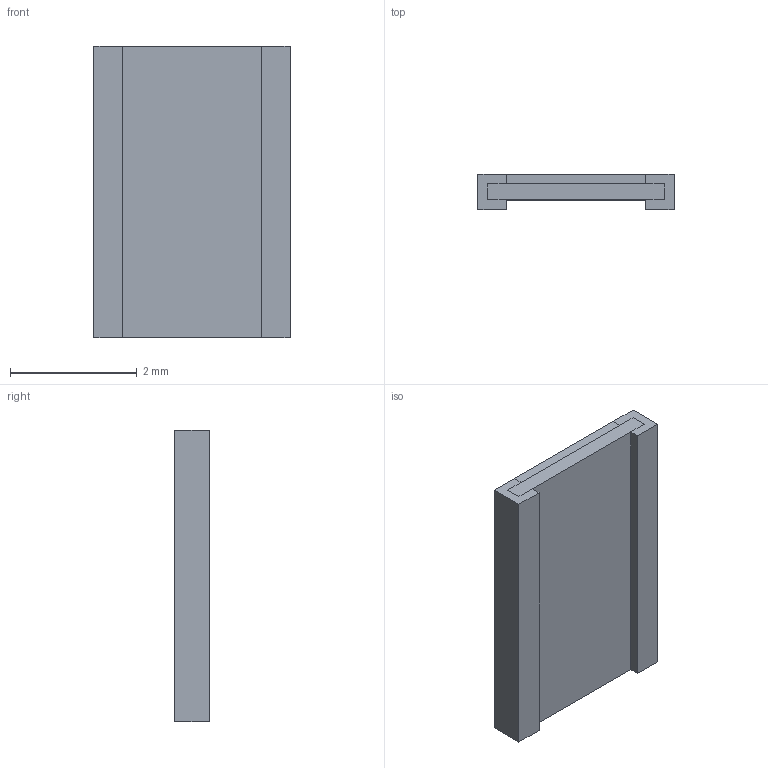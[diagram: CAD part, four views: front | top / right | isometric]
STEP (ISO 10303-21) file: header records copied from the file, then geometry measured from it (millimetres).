
FILE_DESCRIPTION(('FreeCAD Model'),'2;1');
FILE_NAME('Open CASCADE Shape Model','2022-02-08T17:23:48',('Author'),( ''),'Open CASCADE STEP processor 7.5','FreeCAD','Unknown');
FILE_SCHEMA(('AUTOMOTIVE_DESIGN { 1 0 10303 214 1 1 1 1 }'));
Length unit declared in the file: millimetre
Products named in the file (1): Pad002
Bounding box: 3.1 x 0.55 x 4.6 mm (x, y, z)
Volume: 6.3 mm3; surface area: 37.7 mm2
Topology: 1 solids, 1 shells, 18 faces, 48 edges, 32 vertices
Faces by surface type: plane 18
Entity records: 1320 total; most frequent: CARTESIAN_POINT 195, DIRECTION 182, LINE 144, VECTOR 144, ORIENTED_EDGE 96, PCURVE 96, DEFINITIONAL_REPRESENTATION 96, EDGE_CURVE 48
